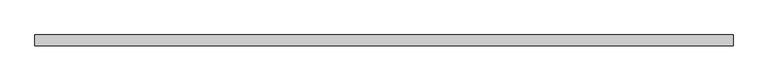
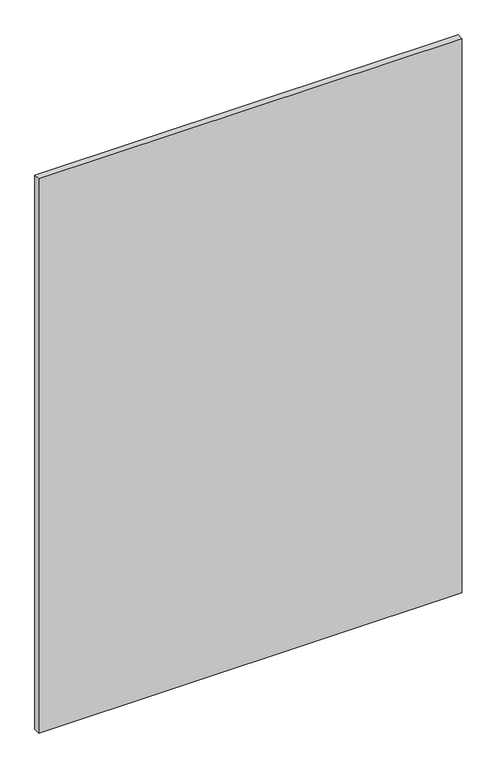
"""IFC4 building model written with IfcOpenShell, lengths in millimetres: plate geometry, 系统嵌板 : 玻璃."""

from ifc_helpers import new_model, si_unit, origin, origin_with_axes, place, context, project, spatial, polyline, outline, extrude, source, transform, mapped, element, save


def plate_72c2615a(model_context):
    return source(origin(), model_context, "Body", "SweptSolid", [
        extrude(outline(polyline([(820.0, -12.5), (-820.0, -12.5), (-820.0, 12.5), (820.0, 12.5), (820.0, -12.5)])), origin_with_axes(), (0.0, 0.0, 1.0), 2270.0),
    ])


if __name__ == "__main__":
    model = new_model("IFC4")
    model_context = context("Model", 3, world=origin())
    ifc_project = project(units=[si_unit("LENGTHUNIT", "METRE", prefix="MILLI")], contexts=[model_context])
    site = spatial("IfcSite", under=ifc_project)
    building = spatial("IfcBuilding", under=site)
    placement = place(None, origin())
    plate_shape = plate_72c2615a(model_context)
    element("IfcPlate", 1, ObjectType="系统嵌板 : 玻璃", at=placement, inside=building, context=model_context, shape_type="MappedRepresentation", body=[
        mapped(plate_shape, transform((0.0, 0.0, 0.0), x_axis=(1.0, 0.0, 0.0), y_axis=(0.0, 1.0, 0.0), z_axis=(0.0, 0.0, 1.0))),
    ])
    save(model, "model.ifc")
